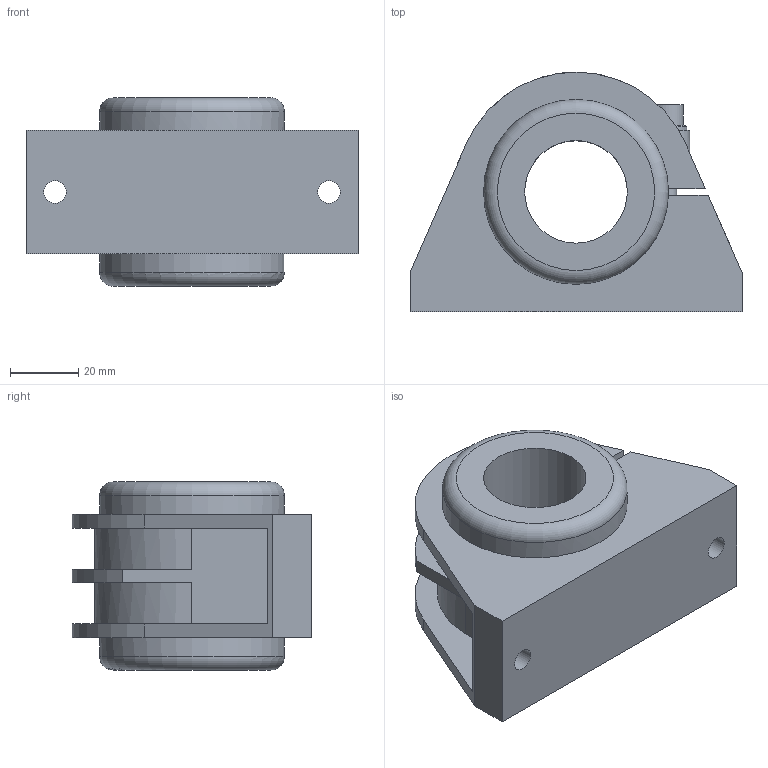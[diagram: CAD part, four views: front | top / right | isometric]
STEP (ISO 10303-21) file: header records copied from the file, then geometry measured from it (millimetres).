
FILE_DESCRIPTION(('STEP AP203'),'1');
FILE_NAME('//192.168.1.1/share/s-4 技術開発/s-4-4_CAD/s-4-4-3_見直し済み/008 修正済み/DLS/DLS_TOP/DLS-30.step','2022-02-18T05:47:25',(' '),(' '),'Spatial InterOp 3D',' ',' ');
FILE_SCHEMA(('CONFIG_CONTROL_DESIGN'));
Length unit declared in the file: millimetre
Products named in the file (1): 1
Bounding box: 97 x 70 x 55 mm (x, y, z)
Volume: 153146.3 mm3; surface area: 32226 mm2
Topology: 1 solids, 1 shells, 60 faces, 161 edges, 106 vertices
Faces by surface type: plane 41, cylinder 16, torus 2, cone 1
Full cylindrical faces by diameter (mm): 6 x1, 6.6 x2, 10 x1, 12 x1, 30 x1, 54 x2
Entity records: 1826 total; most frequent: CARTESIAN_POINT 317, DIRECTION 304, ORIENTED_EDGE 286, EDGE_CURVE 143, AXIS2_PLACEMENT_3D 102, LINE 100, VECTOR 100, VERTEX_POINT 99
